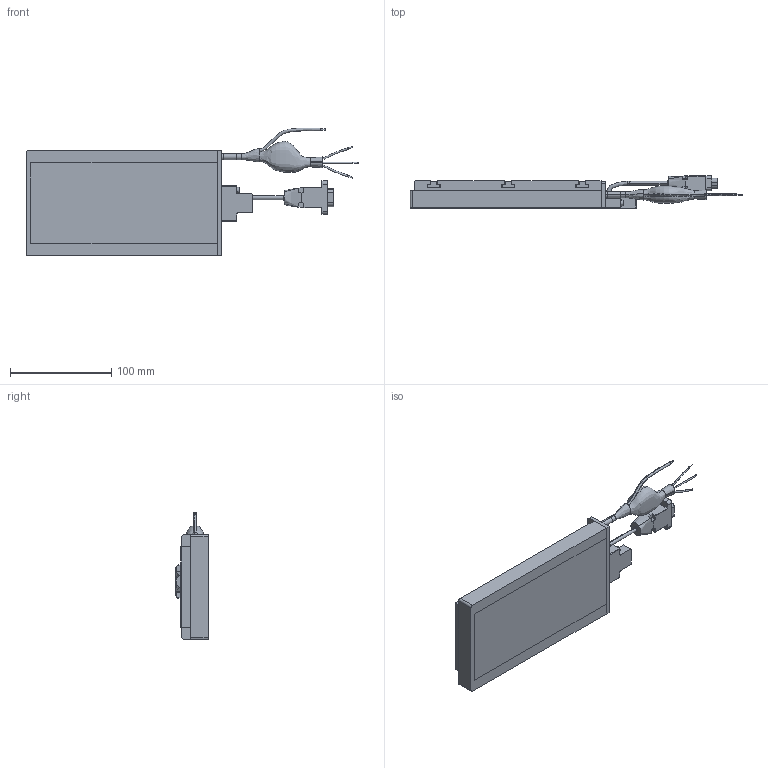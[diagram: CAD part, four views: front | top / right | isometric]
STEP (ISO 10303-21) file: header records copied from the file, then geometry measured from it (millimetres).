
FILE_DESCRIPTION (( 'STEP AP214' ), '1' );
FILE_NAME ('PIX200-027-080.STEP', '2016-05-10T03:14:00', ( '' ), ( '' ), 'SwSTEP 2.0', 'SolidWorks 2015', '' );
FILE_SCHEMA (( 'AUTOMOTIVE_DESIGN' ));
Length unit declared in the file: millimetre
Products named in the file (12): PIX200-027-080; FERRITE CORE (FC2); CBL_MTR_PWR_SS_4C2C_SA (#3620-1); 001SH-0000-000_CUSTOMER ; MALE D-SUB 9PIN CONNECTOR(HALL); HEX SHCS M3x0.5x10(S.S)_B18.3.1M - 3 x 0.5 x 10 Hex SHCS -- 10CHX; CBL_MTR_HALL_DS_5C_SA (#3614-1); 001SH-0000-002_CUSTOMER; 001S200-027-080-003_CUSTOMER; 001S200-027-080-004; 001S200-040-080-0000-003_CUSTOMER; 001S200-027-0000-001_CUSTOMER_80
Assembly tree (16 placements, depth 3):
  PIX200-027-080
    001S200-027-0000-001_CUSTOMER_80
    001S200-040-080-0000-003_CUSTOMER  x3
    001S200-027-080-004
    001S200-027-080-003_CUSTOMER
    001SH-0000-000_CUSTOMER 
      001SH-0000-002_CUSTOMER
      CBL_MTR_HALL_DS_5C_SA (#3614-1)
      HEX SHCS M3x0.5x10(S.S)_B18.3.1M - 3 x 0.5 x 10 Hex SHCS -- 10CHX  x2
      MALE D-SUB 9PIN CONNECTOR(HALL)
    HEX SHCS M3x0.5x10(S.S)_B18.3.1M - 3 x 0.5 x 10 Hex SHCS -- 10CHX  x2
    CBL_MTR_PWR_SS_4C2C_SA (#3620-1)
    FERRITE CORE (FC2)
Bounding box: 328 x 31.73 x 126.34 mm (x, y, z)
Volume: 775930.9 mm3; surface area: 129896.6 mm2
Topology: 15 solids, 15 shells, 523 faces, 1286 edges, 809 vertices
Faces by surface type: plane 272, cylinder 140, cone 49, torus 28, bspline 23, sphere 11
Entity records: 15661 total; most frequent: CARTESIAN_POINT 5185, DIRECTION 1974, ORIENTED_EDGE 1920, EDGE_CURVE 960, AXIS2_PLACEMENT_3D 702, VERTEX_POINT 616, VECTOR 570, LINE 570
